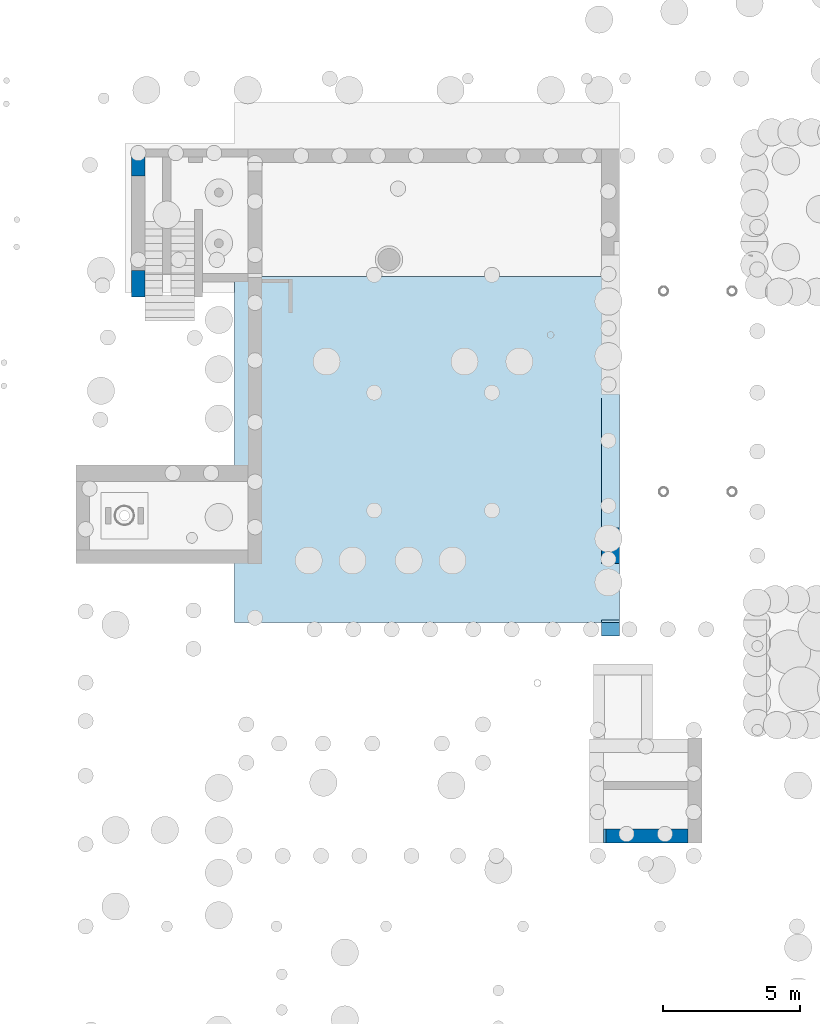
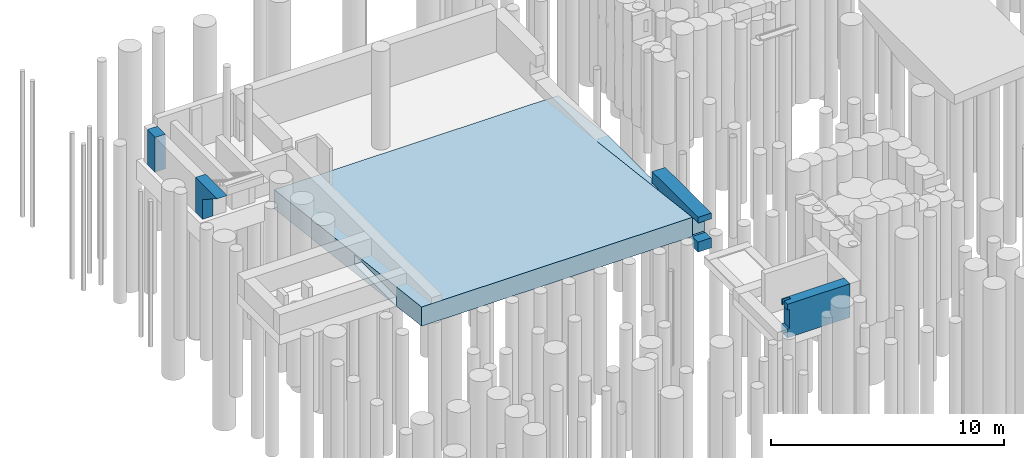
# One storey, part 103 of 104: 3 walls, 1 slab.
"""IFC2X3 building model written with IfcOpenShell, lengths in millimetres."""

from ifc_helpers import new_model, entity, si_unit, converted_unit, derived_unit, direction, frame, origin, place, context, subcontext, project, spatial, faceted_brep, material, layer, layer_set, type_object, element, save


model = new_model("IFC2X3")

# Units and contexts
model_context = context("Model", 3, precision=0.01, world=origin(), true_north=direction((6.12303176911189e-17, 1.0)))
body_context = subcontext(model_context, "Body", "Model", "MODEL_VIEW")
ifc_project = project(units=[si_unit("LENGTHUNIT", "METRE", prefix="MILLI"), si_unit("AREAUNIT", "SQUARE_METRE", prefix="MILLI"), si_unit("VOLUMEUNIT", "CUBIC_METRE"), converted_unit("PLANEANGLEUNIT", "DEGREE", entity("IfcRatioMeasure", 0.0174532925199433), si_unit("PLANEANGLEUNIT", "RADIAN"), dimensions=[0, 0, 0, 0, 0, 0, 0]), si_unit("MASSUNIT", "GRAM", prefix="KILO"), derived_unit("MASSDENSITYUNIT", [(si_unit("MASSUNIT", "GRAM", prefix="KILO"), 1), (si_unit("LENGTHUNIT", "METRE"), -3)]), derived_unit("MOMENTOFINERTIAUNIT", [(si_unit("LENGTHUNIT", "METRE"), 4)]), si_unit("TIMEUNIT", "SECOND"), si_unit("FREQUENCYUNIT", "HERTZ"), si_unit("THERMODYNAMICTEMPERATUREUNIT", "DEGREE_CELSIUS"), derived_unit("THERMALTRANSMITTANCEUNIT", [(si_unit("MASSUNIT", "GRAM", prefix="KILO"), 1), (si_unit("THERMODYNAMICTEMPERATUREUNIT", "KELVIN"), -1), (si_unit("TIMEUNIT", "SECOND"), -3)]), derived_unit("VOLUMETRICFLOWRATEUNIT", [(si_unit("LENGTHUNIT", "METRE"), 3), (si_unit("TIMEUNIT", "SECOND"), -1)]), si_unit("ELECTRICCURRENTUNIT", "AMPERE"), si_unit("ELECTRICVOLTAGEUNIT", "VOLT"), si_unit("POWERUNIT", "WATT"), si_unit("FORCEUNIT", "NEWTON", prefix="KILO"), si_unit("ILLUMINANCEUNIT", "LUX"), si_unit("LUMINOUSFLUXUNIT", "LUMEN"), si_unit("LUMINOUSINTENSITYUNIT", "CANDELA"), derived_unit("USERDEFINED", [(si_unit("MASSUNIT", "GRAM", prefix="KILO"), -1), (si_unit("LENGTHUNIT", "METRE"), -2), (si_unit("TIMEUNIT", "SECOND"), 3), (si_unit("LUMINOUSFLUXUNIT", "LUMEN"), 1)]), derived_unit("LINEARVELOCITYUNIT", [(si_unit("LENGTHUNIT", "METRE"), 1), (si_unit("TIMEUNIT", "SECOND"), -1)]), si_unit("PRESSUREUNIT", "PASCAL"), derived_unit("USERDEFINED", [(si_unit("LENGTHUNIT", "METRE"), -2), (si_unit("MASSUNIT", "GRAM", prefix="KILO"), 1), (si_unit("TIMEUNIT", "SECOND"), -2)]), derived_unit("LINEARFORCEUNIT", [(si_unit("MASSUNIT", "GRAM", prefix="KILO"), 1), (si_unit("LENGTHUNIT", "METRE"), 1), (si_unit("TIMEUNIT", "SECOND"), -2), (si_unit("LENGTHUNIT", "METRE"), -1)]), derived_unit("PLANARFORCEUNIT", [(si_unit("MASSUNIT", "GRAM", prefix="KILO"), 1), (si_unit("LENGTHUNIT", "METRE"), 1), (si_unit("TIMEUNIT", "SECOND"), -2), (si_unit("LENGTHUNIT", "METRE"), -2)])], contexts=[model_context])

# Site, building, storey
site_placement = place(None, origin())
site = spatial("IfcSite", under=ifc_project, at=site_placement, Name="Theater aan de Parade", CompositionType="ELEMENT")
building_placement = place(site_placement, origin())
building = spatial("IfcBuilding", under=site, at=building_placement, Name="Theater aan de Parade", CompositionType="ELEMENT")
storey_placement = place(building_placement, frame((0.0, 0.0, -5520.0)))
storey = spatial("IfcBuildingStorey", under=building, at=storey_placement, Name="-2 kelder", CompositionType="ELEMENT", Elevation=-5520.0)

# Slab
ifc_material = material(Name="00_PBT_MAT_beton t.p.g.")
slab_type = type_object("IfcSlabType", Name="Foundation Slab:13_PBT_FS_beton t.p.g._d=1000_bestaand", PredefinedType="BASESLAB")
slab_placement = place(storey_placement, origin())
element("IfcSlab", 1, at=slab_placement, inside=storey, type_object=slab_type, material=ifc_material, Name="Foundation Slab:13_PBT_FS_beton t.p.g._d=1000_bestaand", ObjectType="Foundation Slab:13_PBT_FS_beton t.p.g._d=1000_bestaand", PredefinedType="BASESLAB", context=body_context, shape_type="Brep", body=[
    faceted_brep([(29825.0, 26410.0, 472.795540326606), (15775.0, 26410.0, 472.795540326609), (15775.0, 38450.0, -975.052560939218), (15775.0, 38990.0892300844, -1040.0), (15775.0, 39050.0, -1047.20445967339), (29825.0, 39050.0, -1047.20445967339), (29825.0, 39050.0, -40.0), (15775.0, 39050.0, -40.0), (15775.0, 32165.0, 787.943037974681), (15775.0, 31565.0, 860.094936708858), (15775.0, 29065.0, 1160.72784810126), (15775.0, 28565.0, 1220.85443037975), (15775.0, 26410.0, 1480.0), (16275.0, 26410.0, 1480.0), (16775.0, 26410.0, 1480.0), (22825.0, 26410.0, 1480.0), (29175.0, 26410.0, 1480.0), (29175.0, 26510.0, 1467.9746835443), (29825.0, 26510.0, 1467.9746835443), (29825.0, 29360.0, 1125.25316455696), (29175.0, 29360.0, 1125.25316455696), (29175.0, 34725.7894736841, 480.0), (29825.0, 34725.7894736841, 480.0), (29825.0, 26410.0, 480.0), (29175.0, 26410.0, 480.0), (15775.0, 39050.0, -1040.0), (29825.0, 39050.0, -1040.0), (29825.0, 29360.0, 480.0), (29825.0, 26510.0, 480.0), (15775.0, 28565.0, 220.0), (15775.0, 32165.0, 220.0), (15775.0, 32165.0, 720.0), (15775.0, 31565.0, 720.0), (15775.0, 29065.0, 720.0), (15775.0, 28565.0, 720.0), (29175.0, 29360.0, 480.0), (29175.0, 26510.0, 480.0), (16775.0, 28565.0, 220.0), (16775.0, 32165.0, 220.0), (16775.0, 32165.0, 720.0), (16775.0, 28565.0, 720.0)], [[[0, 1, 2, 3, 4, 5]], [[6, 7, 8, 9, 10, 11, 12, 13, 14, 15, 16, 17, 18, 19, 20, 21, 22]], [[1, 0, 23, 24, 16, 15, 14, 13, 12]], [[5, 4, 25, 7, 6, 26]], [[0, 5, 26, 6, 22, 27, 19, 18, 28, 23]], [[29, 30, 31, 32, 33, 34], [12, 11, 10, 9, 8, 7, 25, 4, 3, 2, 1]], [[35, 27, 22, 21]], [[35, 21, 20]], [[27, 35, 20, 19]], [[36, 24, 23, 28]], [[24, 36, 17, 16]], [[36, 28, 18, 17]], [[37, 38, 30, 29]], [[39, 40, 34, 33, 32, 31]], [[40, 37, 29, 34]], [[38, 39, 31, 30]], [[38, 37, 40, 39]]], outer=[[True], [True], [True], [True], [True], [False, True], [True], [True], [True], [True], [True], [True], [True], [True], [True], [True], [True]]),
])

# Walls
ifc_layer_1 = layer(ifc_material, 500.0)
ifc_layer_set_1 = layer_set([ifc_layer_1], Name="Basic Wall:16_PBT_WA_beton t.p.g._d=500_bestaand")
wall_type_1 = type_object("IfcWallType", Name="Basic Wall:16_PBT_WA_beton t.p.g._d=500_bestaand", PredefinedType="STANDARD", material=ifc_layer_set_1)
wall_1_placement = place(storey_placement, frame((32340.0, 18615.0, 20.0), z_axis=(0.0, 0.0, 1.0), x_axis=(-1.0, 0.0, 0.0)))
element("IfcWall", 2, at=wall_1_placement, inside=storey, type_object=wall_type_1, Name="Basic Wall:16_PBT_WA_beton t.p.g._d=500_bestaand", ObjectType="Basic Wall:16_PBT_WA_beton t.p.g._d=500_bestaand", context=body_context, shape_type="Brep", body=[
    faceted_brep([(0.0, -250.0, 0.0), (3100.0, -250.0, 0.0), (3100.0, -250.0, 460.0), (2995.0, -250.0, 460.0), (2995.0, -250.0, 1460.0), (3100.0, -250.0, 1460.0), (3100.0, -250.0, 1760.0), (0.0, -250.0, 1760.0), (3100.0, 250.0, 0.0), (0.0, 250.0, 0.0), (0.0, 250.0, 1760.0), (3050.0, 250.0, 1760.0), (3100.0, 250.0, 1760.0), (3100.0, 250.0, 1460.0), (3050.0, 250.0, 1460.0), (2995.0, 250.0, 1460.0), (2995.0, 250.0, 1160.0), (2995.0, 250.0, 460.0), (3100.0, 250.0, 460.0), (3100.0, -200.0, 1460.0), (3100.0, -200.0, 1760.0), (2750.0, -200.0, 1760.0), (2750.0, -50.0, 1760.0), (3100.0, -50.0, 1760.0), (2995.0, -200.0, 1460.0), (2995.0, -50.0, 1460.0), (2750.0, -50.0, 1460.0), (3100.0, -50.0, 1460.0), (2750.0, -200.0, 1460.0)], [[[0, 1, 2, 3, 4, 5, 6, 7]], [[8, 9, 10, 11, 12, 13, 14, 15, 16, 17, 18]], [[1, 0, 9, 8]], [[6, 5, 19, 20]], [[7, 6, 20, 21, 22, 23, 12, 11, 10]], [[0, 7, 10, 9]], [[17, 3, 2, 18]], [[5, 4, 24, 19]], [[3, 17, 16, 15, 25, 24, 4]], [[26, 25, 27, 23, 22]], [[24, 28, 21, 20, 19]], [[26, 28, 24, 25]], [[28, 26, 22, 21]], [[15, 14, 13, 27, 25]], [[1, 8, 18, 2]], [[13, 12, 23, 27]]]),
])
ifc_layer_2 = layer(ifc_material, 500.0)
ifc_layer_set_2 = layer_set([ifc_layer_2], Name="Basic Wall:28_PBT_WA_beton t.p.g._d=500_bestaand")
wall_type_2 = type_object("IfcWallType", Name="Basic Wall:28_PBT_WA_beton t.p.g._d=500_bestaand", PredefinedType="STANDARD", material=ifc_layer_set_2)
wall_2_placement = place(storey_placement, frame((12260.0, 37416.6178623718, -40.0), z_axis=(0.0, 0.0, 1.0), x_axis=(0.0, 1.0, 0.0)))
element("IfcWall", 3, at=wall_2_placement, inside=storey, type_object=wall_type_2, Name="Basic Wall:28_PBT_WA_beton t.p.g._d=500_bestaand", ObjectType="Basic Wall:28_PBT_WA_beton t.p.g._d=500_bestaand", context=body_context, shape_type="Brep", body=[
    faceted_brep([(1233.38213762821, -250.0, 0.0), (1703.38213762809, -250.0, 0.0), (1853.38213760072, -250.0, 0.0), (1853.38213760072, -250.0, 1820.0), (1703.38213760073, -250.0, 1820.0), (0.0, -250.0, 1820.0), (1233.38213762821, -250.0, 1040.0), (1233.38213762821, 250.0, 0.0), (1853.38213760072, 250.0, 0.0), (1233.38213762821, 250.0, 1040.0), (0.0, 250.0, 1820.0), (1853.38213760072, 250.0, 1820.0)], [[[0, 1, 2, 3, 4, 5, 6]], [[2, 1, 0, 7, 8]], [[0, 6, 9, 7]], [[6, 5, 10, 9]], [[3, 2, 8, 11]], [[5, 4, 3, 11, 10]], [[7, 9, 10, 11, 8]]]),
    faceted_brep([(5983.38213762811, 250.0, 1820.0), (5983.38213762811, 250.0, 0.0), (5303.38213762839, 250.0, 0.0), (5303.38213762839, 250.0, 1820.0), (5453.38213760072, 250.0, 1820.0), (5983.38213762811, -250.0, 1820.0), (5983.38213762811, -250.0, 0.0), (5303.38213762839, -250.0, 1820.0), (5453.38213760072, -250.0, 1820.0), (5303.38213762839, -250.0, 0.0)], [[[0, 1, 2, 3, 4]], [[5, 6, 1, 0]], [[7, 8, 5, 0, 4, 3]], [[9, 7, 3, 2]], [[6, 9, 2, 1]], [[5, 8, 7, 9, 6]]]),
])
ifc_layer_3 = layer(ifc_material, 650.0)
ifc_layer_set_3 = layer_set([ifc_layer_3], Name="Basic Wall:16_PBT_WA_beton t.p.g._d=650_bestaand")
wall_type_3 = type_object("IfcWallType", Name="Basic Wall:16_PBT_WA_beton t.p.g._d=650_bestaand", PredefinedType="STANDARD", material=ifc_layer_set_3)
wall_3_placement = place(storey_placement, frame((29500.0, 29860.0, -40.0), z_axis=(0.0, 0.0, 1.0), x_axis=(0.0, -1.0, 0.0)))
element("IfcWall", 4, at=wall_3_placement, inside=storey, type_object=wall_type_3, Name="Basic Wall:16_PBT_WA_beton t.p.g._d=650_bestaand", ObjectType="Basic Wall:16_PBT_WA_beton t.p.g._d=650_bestaand", context=body_context, shape_type="Brep", body=[
    faceted_brep([(3950.0, -325.0, 0.0), (3950.0, -325.0, 520.0), (3450.0, -325.0, 520.0), (3450.0, -325.0, 0.0), (3950.0, 325.0, 520.0), (3950.0, 325.0, 0.0), (3450.0, 325.0, 0.0), (3450.0, 325.0, 512.79554032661), (3450.0, 325.0, 520.0)], [[[0, 1, 2, 3]], [[4, 5, 6, 7, 8]], [[2, 1, 4, 8]], [[5, 0, 3, 6]], [[6, 3, 2, 8, 7]], [[0, 5, 4, 1]]]),
    faceted_brep([(0.0, -325.0, 1820.0), (3950.0, -325.0, 1820.0), (3950.0, 325.0, 1820.0), (3450.0, 325.0, 1820.0), (3350.0, 325.0, 1820.0), (500.0, 325.0, 1820.0), (0.0, 325.0, 1820.0), (0.0, 325.0, 1220.0), (0.0, 175.0, 1220.0), (0.0, -325.0, 1220.0), (3950.0, -325.0, 1520.0), (3950.0, 325.0, 1520.0), (3350.0, -325.0, 1520.0), (3350.0, 325.0, 1520.0), (3450.0, 325.0, 1520.0), (3450.0, -325.0, 1520.0), (3350.0, -325.0, 1507.97468354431), (3350.0, 325.0, 1507.97468354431), (500.0, 325.0, 1220.0), (500.0, -325.0, 1220.0), (500.0, 325.0, 1165.25316455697), (500.0, -325.0, 1165.25316455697)], [[[0, 1, 2, 3, 4, 5, 6]], [[0, 6, 7, 8, 9]], [[2, 1, 10, 11]], [[12, 13, 14, 11, 10, 15]], [[13, 12, 16, 17]], [[18, 19, 9, 8, 7]], [[19, 18, 20, 21]], [[17, 16, 21, 20]], [[2, 11, 14, 13, 17, 20, 18, 7, 6, 5, 4, 3]], [[1, 0, 9, 19, 21, 16, 12, 15, 10]]]),
])

save(model, "model.ifc")
